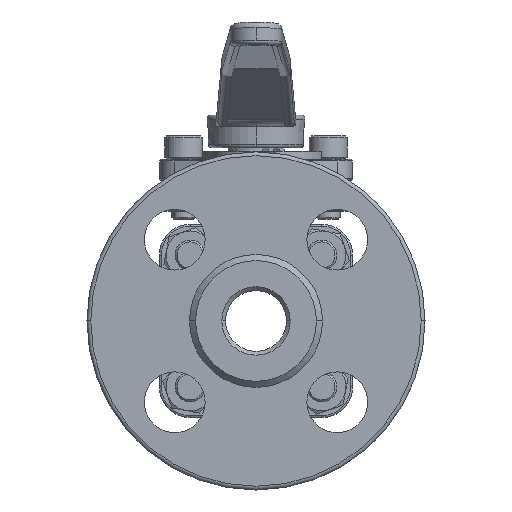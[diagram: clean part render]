
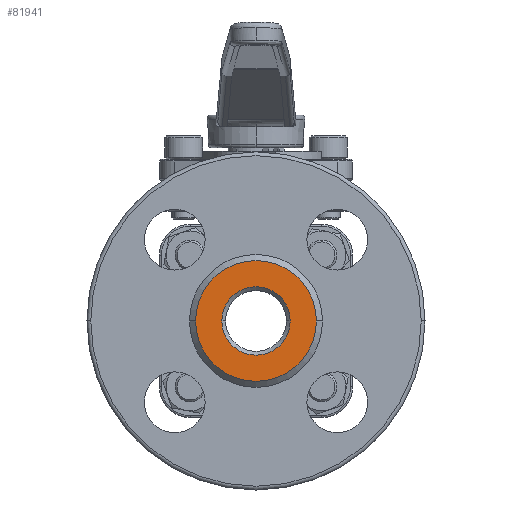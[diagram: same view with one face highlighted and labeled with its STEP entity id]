
A CAD part, left-side view. The second image highlights one B-rep face of the part: STEP entity #81941.
In plain terms, the highlighted planar face has unit normal (-1, 0, 0).
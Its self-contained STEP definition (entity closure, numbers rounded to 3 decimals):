
#2736 = CONICAL_SURFACE('',#2737,8.,0.785);
#2737 = AXIS2_PLACEMENT_3D('',#2738,#2739,#2740);
#2738 = CARTESIAN_POINT('',(-58.65,0.,
    0.));
#2739 = DIRECTION('',(-1.,0.,0.));
#2740 = DIRECTION('',(-0.,-1.,0.));
#5902 = EDGE_CURVE('',#5903,#5905,#5907,.T.);
#5903 = VERTEX_POINT('',#5904);
#5904 = CARTESIAN_POINT('',(-59.65,15.9,0.));
#5905 = VERTEX_POINT('',#5906);
#5906 = CARTESIAN_POINT('',(-59.65,-15.9,0.));
#5907 = SURFACE_CURVE('',#5908,(#5913,#5925),.PCURVE_S1.);
#5908 = CIRCLE('',#5909,15.9);
#5909 = AXIS2_PLACEMENT_3D('',#5910,#5911,#5912);
#5910 = CARTESIAN_POINT('',(-59.65,0.,
    0.));
#5911 = DIRECTION('',(1.,0.,0.));
#5912 = DIRECTION('',(-0.,1.,0.));
#5913 = PCURVE('',#5914,#5919);
#5914 = CONICAL_SURFACE('',#5915,17.5,0.785);
#5915 = AXIS2_PLACEMENT_3D('',#5916,#5917,#5918);
#5916 = CARTESIAN_POINT('',(-58.05,0.,
    0.));
#5917 = DIRECTION('',(1.,0.,0.));
#5918 = DIRECTION('',(-0.,1.,0.));
#5919 = DEFINITIONAL_REPRESENTATION('',(#5920),#5924);
#5920 = LINE('',#5921,#5922);
#5921 = CARTESIAN_POINT('',(0.,-1.6));
#5922 = VECTOR('',#5923,1.);
#5923 = DIRECTION('',(1.,0.));
#5924 = ( GEOMETRIC_REPRESENTATION_CONTEXT(2) 
PARAMETRIC_REPRESENTATION_CONTEXT() REPRESENTATION_CONTEXT('2D SPACE',''
  ) );
#5925 = PCURVE('',#5926,#5931);
#5926 = PLANE('',#5927);
#5927 = AXIS2_PLACEMENT_3D('',#5928,#5929,#5930);
#5928 = CARTESIAN_POINT('',(-59.65,0.,28.497));
#5929 = DIRECTION('',(1.,0.,0.));
#5930 = DIRECTION('',(0.,0.,1.));
#5931 = DEFINITIONAL_REPRESENTATION('',(#5932),#5936);
#5932 = CIRCLE('',#5933,15.9);
#5933 = AXIS2_PLACEMENT_2D('',#5934,#5935);
#5934 = CARTESIAN_POINT('',(-28.497,0.));
#5935 = DIRECTION('',(0.,-1.));
#5936 = ( GEOMETRIC_REPRESENTATION_CONTEXT(2) 
PARAMETRIC_REPRESENTATION_CONTEXT() REPRESENTATION_CONTEXT('2D SPACE',''
  ) );
#5954 = CONICAL_SURFACE('',#5955,17.5,0.785);
#5955 = AXIS2_PLACEMENT_3D('',#5956,#5957,#5958);
#5956 = CARTESIAN_POINT('',(-58.05,0.,
    0.));
#5957 = DIRECTION('',(1.,0.,0.));
#5958 = DIRECTION('',(-0.,1.,0.));
#7872 = VERTEX_POINT('',#7873);
#7873 = CARTESIAN_POINT('',(-59.65,-9.,0.));
#7887 = CONICAL_SURFACE('',#7888,8.,0.785);
#7888 = AXIS2_PLACEMENT_3D('',#7889,#7890,#7891);
#7889 = CARTESIAN_POINT('',(-58.65,0.,
    0.));
#7890 = DIRECTION('',(-1.,0.,0.));
#7891 = DIRECTION('',(-0.,-1.,0.));
#7899 = EDGE_CURVE('',#7872,#7900,#7902,.T.);
#7900 = VERTEX_POINT('',#7901);
#7901 = CARTESIAN_POINT('',(-59.65,9.,0.));
#7902 = SURFACE_CURVE('',#7903,(#7908,#7915),.PCURVE_S1.);
#7903 = CIRCLE('',#7904,9.);
#7904 = AXIS2_PLACEMENT_3D('',#7905,#7906,#7907);
#7905 = CARTESIAN_POINT('',(-59.65,0.,
    0.));
#7906 = DIRECTION('',(1.,0.,0.));
#7907 = DIRECTION('',(-0.,1.,0.));
#7908 = PCURVE('',#2736,#7909);
#7909 = DEFINITIONAL_REPRESENTATION('',(#7910),#7914);
#7910 = LINE('',#7911,#7912);
#7911 = CARTESIAN_POINT('',(9.425,1.));
#7912 = VECTOR('',#7913,1.);
#7913 = DIRECTION('',(-1.,0.));
#7914 = ( GEOMETRIC_REPRESENTATION_CONTEXT(2) 
PARAMETRIC_REPRESENTATION_CONTEXT() REPRESENTATION_CONTEXT('2D SPACE',''
  ) );
#7915 = PCURVE('',#5926,#7916);
#7916 = DEFINITIONAL_REPRESENTATION('',(#7917),#7921);
#7917 = CIRCLE('',#7918,9.);
#7918 = AXIS2_PLACEMENT_2D('',#7919,#7920);
#7919 = CARTESIAN_POINT('',(-28.497,0.));
#7920 = DIRECTION('',(0.,-1.));
#7921 = ( GEOMETRIC_REPRESENTATION_CONTEXT(2) 
PARAMETRIC_REPRESENTATION_CONTEXT() REPRESENTATION_CONTEXT('2D SPACE',''
  ) );
#71665 = EDGE_CURVE('',#7900,#7872,#71666,.T.);
#71666 = SURFACE_CURVE('',#71667,(#71672,#71679),.PCURVE_S1.);
#71667 = CIRCLE('',#71668,9.);
#71668 = AXIS2_PLACEMENT_3D('',#71669,#71670,#71671);
#71669 = CARTESIAN_POINT('',(-59.65,0.,
    0.));
#71670 = DIRECTION('',(1.,0.,0.));
#71671 = DIRECTION('',(-0.,1.,0.));
#71672 = PCURVE('',#7887,#71673);
#71673 = DEFINITIONAL_REPRESENTATION('',(#71674),#71678);
#71674 = LINE('',#71675,#71676);
#71675 = CARTESIAN_POINT('',(3.142,1.));
#71676 = VECTOR('',#71677,1.);
#71677 = DIRECTION('',(-1.,0.));
#71678 = ( GEOMETRIC_REPRESENTATION_CONTEXT(2) 
PARAMETRIC_REPRESENTATION_CONTEXT() REPRESENTATION_CONTEXT('2D SPACE',''
  ) );
#71679 = PCURVE('',#5926,#71680);
#71680 = DEFINITIONAL_REPRESENTATION('',(#71681),#71685);
#71681 = CIRCLE('',#71682,9.);
#71682 = AXIS2_PLACEMENT_2D('',#71683,#71684);
#71683 = CARTESIAN_POINT('',(-28.497,0.));
#71684 = DIRECTION('',(0.,-1.));
#71685 = ( GEOMETRIC_REPRESENTATION_CONTEXT(2) 
PARAMETRIC_REPRESENTATION_CONTEXT() REPRESENTATION_CONTEXT('2D SPACE',''
  ) );
#81941 = ADVANCED_FACE('',(#81942,#81967),#5926,.F.);
#81942 = FACE_BOUND('',#81943,.T.);
#81943 = EDGE_LOOP('',(#81944,#81945));
#81944 = ORIENTED_EDGE('',*,*,#5902,.F.);
#81945 = ORIENTED_EDGE('',*,*,#81946,.F.);
#81946 = EDGE_CURVE('',#5905,#5903,#81947,.T.);
#81947 = SURFACE_CURVE('',#81948,(#81953,#81960),.PCURVE_S1.);
#81948 = CIRCLE('',#81949,15.9);
#81949 = AXIS2_PLACEMENT_3D('',#81950,#81951,#81952);
#81950 = CARTESIAN_POINT('',(-59.65,0.,
    0.));
#81951 = DIRECTION('',(1.,0.,0.));
#81952 = DIRECTION('',(-0.,1.,0.));
#81953 = PCURVE('',#5926,#81954);
#81954 = DEFINITIONAL_REPRESENTATION('',(#81955),#81959);
#81955 = CIRCLE('',#81956,15.9);
#81956 = AXIS2_PLACEMENT_2D('',#81957,#81958);
#81957 = CARTESIAN_POINT('',(-28.497,0.));
#81958 = DIRECTION('',(0.,-1.));
#81959 = ( GEOMETRIC_REPRESENTATION_CONTEXT(2) 
PARAMETRIC_REPRESENTATION_CONTEXT() REPRESENTATION_CONTEXT('2D SPACE',''
  ) );
#81960 = PCURVE('',#5954,#81961);
#81961 = DEFINITIONAL_REPRESENTATION('',(#81962),#81966);
#81962 = LINE('',#81963,#81964);
#81963 = CARTESIAN_POINT('',(0.,-1.6));
#81964 = VECTOR('',#81965,1.);
#81965 = DIRECTION('',(1.,0.));
#81966 = ( GEOMETRIC_REPRESENTATION_CONTEXT(2) 
PARAMETRIC_REPRESENTATION_CONTEXT() REPRESENTATION_CONTEXT('2D SPACE',''
  ) );
#81967 = FACE_BOUND('',#81968,.T.);
#81968 = EDGE_LOOP('',(#81969,#81970));
#81969 = ORIENTED_EDGE('',*,*,#7899,.T.);
#81970 = ORIENTED_EDGE('',*,*,#71665,.T.);
